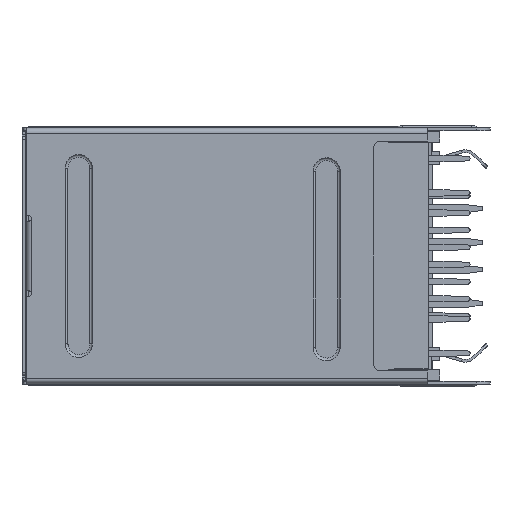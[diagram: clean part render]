
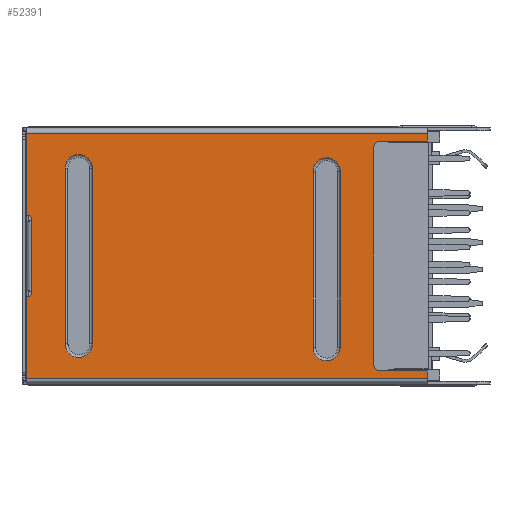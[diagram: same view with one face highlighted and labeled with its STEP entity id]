
A CAD part, left-side view. The second image highlights one B-rep face of the part: STEP entity #52391.
In plain terms, the highlighted planar face has unit normal (-1, 0, 0).
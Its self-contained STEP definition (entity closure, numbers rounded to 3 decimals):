
#2105=DIRECTION('',(0.,-1.,0.));
#2106=VECTOR('',#2105,29.7);
#2107=CARTESIAN_POINT('',(-27.21,-0.48,
-9.08));
#2108=LINE('',#2107,#2106);
#2137=DIRECTION('',(0.,0.,1.));
#2138=VECTOR('',#2137,0.575);
#2139=CARTESIAN_POINT('',(-27.21,-30.18,-9.08));
#2140=LINE('',#2139,#2138);
#3127=CARTESIAN_POINT('',(-27.21,-0.68,2.77));
#3128=DIRECTION('',(-1.,0.,0.));
#3129=DIRECTION('',(0.,-1.,0.));
#3130=AXIS2_PLACEMENT_3D('',#3127,#3128,#3129);
#3132=DIRECTION('',(0.,1.,0.));
#3133=VECTOR('',#3132,0.2);
#3134=CARTESIAN_POINT('',(-27.21,-0.68,2.97));
#3135=LINE('',#3134,#3133);
#3136=DIRECTION('',(0.,0.,1.));
#3137=VECTOR('',#3136,6.1);
#3138=CARTESIAN_POINT('',(-27.21,-0.48,2.97));
#3139=LINE('',#3138,#3137);
#3140=DIRECTION('',(0.,1.,0.));
#3141=VECTOR('',#3140,3.5);
#3142=CARTESIAN_POINT('',(-27.21,-30.18,8.495));
#3143=LINE('',#3142,#3141);
#3144=CARTESIAN_POINT('',(-27.21,-26.68,7.995));
#3145=DIRECTION('',(-1.,0.,0.));
#3146=DIRECTION('',(0.,0.,1.));
#3147=AXIS2_PLACEMENT_3D('',#3144,#3145,#3146);
#3149=CARTESIAN_POINT('',(-27.21,-26.68,-8.005));
#3150=DIRECTION('',(-1.,0.,0.));
#3151=DIRECTION('',(0.,1.,0.));
#3152=AXIS2_PLACEMENT_3D('',#3149,#3150,#3151);
#3154=DIRECTION('',(0.,0.,1.));
#3155=VECTOR('',#3154,6.1);
#3156=CARTESIAN_POINT('',(-27.21,-0.48,
-9.08));
#3157=LINE('',#3156,#3155);
#3158=CARTESIAN_POINT('',(-27.21,-0.68,-2.78));
#3159=DIRECTION('',(-1.,0.,0.));
#3160=DIRECTION('',(0.,0.,-1.));
#3161=AXIS2_PLACEMENT_3D('',#3158,#3159,#3160);
#3163=CARTESIAN_POINT('',(-27.21,-4.38,6.495));
#3164=DIRECTION('',(-1.,0.,0.));
#3165=DIRECTION('',(0.,-1.,0.));
#3166=AXIS2_PLACEMENT_3D('',#3163,#3164,#3165);
#3168=CARTESIAN_POINT('',(-27.21,-4.38,6.495));
#3169=DIRECTION('',(-1.,0.,0.));
#3170=DIRECTION('',(0.,-0.995,0.104));
#3171=AXIS2_PLACEMENT_3D('',#3168,#3169,#3170);
#3173=CARTESIAN_POINT('',(-27.21,-4.38,-6.505));
#3174=DIRECTION('',(-1.,0.,0.));
#3175=DIRECTION('',(0.,1.,0.));
#3176=AXIS2_PLACEMENT_3D('',#3173,#3174,#3175);
#3178=CARTESIAN_POINT('',(-27.21,-4.38,-6.505));
#3179=DIRECTION('',(-1.,0.,0.));
#3180=DIRECTION('',(0.,0.995,-0.104));
#3181=AXIS2_PLACEMENT_3D('',#3178,#3179,#3180);
#3183=CARTESIAN_POINT('',(-27.21,-22.7,6.25));
#3184=DIRECTION('',(-1.,0.,0.));
#3185=DIRECTION('',(0.,-1.,0.));
#3186=AXIS2_PLACEMENT_3D('',#3183,#3184,#3185);
#3188=CARTESIAN_POINT('',(-27.21,-22.7,6.25));
#3189=DIRECTION('',(-1.,0.,0.));
#3190=DIRECTION('',(0.,-0.995,0.104));
#3191=AXIS2_PLACEMENT_3D('',#3188,#3189,#3190);
#3193=CARTESIAN_POINT('',(-27.21,-22.7,-6.75));
#3194=DIRECTION('',(-1.,0.,0.));
#3195=DIRECTION('',(0.,1.,0.));
#3196=AXIS2_PLACEMENT_3D('',#3193,#3194,#3195);
#3198=CARTESIAN_POINT('',(-27.21,-22.7,-6.75));
#3199=DIRECTION('',(-1.,0.,0.));
#3200=DIRECTION('',(0.,0.995,-0.104));
#3201=AXIS2_PLACEMENT_3D('',#3198,#3199,#3200);
#3229=DIRECTION('',(0.,0.,-1.));
#3230=VECTOR('',#3229,5.55);
#3231=CARTESIAN_POINT('',(-27.21,-0.88,2.77));
#3232=LINE('',#3231,#3230);
#7009=DIRECTION('',(0.,0.,1.));
#7010=VECTOR('',#7009,0.575);
#7011=CARTESIAN_POINT('',(-27.21,-30.18,8.495));
#7012=LINE('',#7011,#7010);
#7044=DIRECTION('',(0.,1.,0.));
#7045=VECTOR('',#7044,29.7);
#7046=CARTESIAN_POINT('',(-27.21,-30.18,9.07));
#7047=LINE('',#7046,#7045);
#7178=DIRECTION('',(0.,1.,0.));
#7179=VECTOR('',#7178,0.2);
#7180=CARTESIAN_POINT('',(-27.21,-0.68,-2.98));
#7181=LINE('',#7180,#7179);
#7270=DIRECTION('',(0.,1.,0.));
#7271=VECTOR('',#7270,3.5);
#7272=CARTESIAN_POINT('',(-27.21,-30.18,-8.505));
#7273=LINE('',#7272,#7271);
#7286=DIRECTION('',(0.,0.,1.));
#7287=VECTOR('',#7286,16.);
#7288=CARTESIAN_POINT('',(-27.21,-26.18,-8.005));
#7289=LINE('',#7288,#7287);
#28000=DIRECTION('',(0.,0.,-1.));
#28001=VECTOR('',#28000,13.);
#28002=CARTESIAN_POINT('',(-27.21,-5.38,6.495));
#28003=LINE('',#28002,#28001);
#28038=DIRECTION('',(0.,0.,1.));
#28039=VECTOR('',#28038,13.);
#28040=CARTESIAN_POINT('',(-27.21,-3.38,-6.505));
#28041=LINE('',#28040,#28039);
#28056=DIRECTION('',(0.,0.,-1.));
#28057=VECTOR('',#28056,13.);
#28058=CARTESIAN_POINT('',(-27.21,-23.7,6.25));
#28059=LINE('',#28058,#28057);
#28094=DIRECTION('',(0.,0.,1.));
#28095=VECTOR('',#28094,13.);
#28096=CARTESIAN_POINT('',(-27.21,-21.7,-6.75));
#28097=LINE('',#28096,#28095);
#37675=CARTESIAN_POINT('',(-27.21,-0.48,-9.08));
#37676=VERTEX_POINT('',#37675);
#37677=CARTESIAN_POINT('',(-27.21,-30.18,-9.08));
#37678=VERTEX_POINT('',#37677);
#37683=CARTESIAN_POINT('',(-27.21,-0.48,
-2.98));
#37684=VERTEX_POINT('',#37683);
#37687=CARTESIAN_POINT('',(-27.21,-30.18,-8.505));
#37688=VERTEX_POINT('',#37687);
#37819=CARTESIAN_POINT('',(-27.21,-0.88,2.77));
#37820=CARTESIAN_POINT('',(-27.21,-0.88,-2.78));
#37821=VERTEX_POINT('',#37819);
#37822=VERTEX_POINT('',#37820);
#37823=CARTESIAN_POINT('',(-27.21,-0.68,2.97));
#37824=VERTEX_POINT('',#37823);
#37825=CARTESIAN_POINT('',(-27.21,-0.48,2.97));
#37826=VERTEX_POINT('',#37825);
#37827=CARTESIAN_POINT('',(-27.21,-0.48,9.07));
#37828=VERTEX_POINT('',#37827);
#37829=CARTESIAN_POINT('',(-27.21,-30.18,9.07));
#37830=VERTEX_POINT('',#37829);
#37831=CARTESIAN_POINT('',(-27.21,-30.18,8.495));
#37832=VERTEX_POINT('',#37831);
#37833=CARTESIAN_POINT('',(-27.21,-26.68,8.495));
#37834=VERTEX_POINT('',#37833);
#37835=CARTESIAN_POINT('',(-27.21,-26.18,7.995));
#37836=VERTEX_POINT('',#37835);
#37837=CARTESIAN_POINT('',(-27.21,-26.18,-8.005));
#37838=VERTEX_POINT('',#37837);
#37839=CARTESIAN_POINT('',(-27.21,-26.68,-8.505));
#37840=VERTEX_POINT('',#37839);
#37841=CARTESIAN_POINT('',(-27.21,-0.68,-2.98));
#37842=VERTEX_POINT('',#37841);
#37843=CARTESIAN_POINT('',(-27.21,-5.38,6.495));
#37844=CARTESIAN_POINT('',(-27.21,-5.38,-6.505));
#37845=VERTEX_POINT('',#37843);
#37846=VERTEX_POINT('',#37844);
#37847=CARTESIAN_POINT('',(-27.21,-5.375,6.599));
#37848=VERTEX_POINT('',#37847);
#37849=CARTESIAN_POINT('',(-27.21,-3.38,6.495));
#37850=VERTEX_POINT('',#37849);
#37851=CARTESIAN_POINT('',(-27.21,-3.38,-6.505));
#37852=VERTEX_POINT('',#37851);
#37853=CARTESIAN_POINT('',(-27.21,-3.385,-6.609));
#37854=VERTEX_POINT('',#37853);
#37855=CARTESIAN_POINT('',(-27.21,-23.7,6.25));
#37856=CARTESIAN_POINT('',(-27.21,-23.7,-6.75));
#37857=VERTEX_POINT('',#37855);
#37858=VERTEX_POINT('',#37856);
#37859=CARTESIAN_POINT('',(-27.21,-23.695,6.354));
#37860=VERTEX_POINT('',#37859);
#37861=CARTESIAN_POINT('',(-27.21,-21.7,6.25));
#37862=VERTEX_POINT('',#37861);
#37863=CARTESIAN_POINT('',(-27.21,-21.7,-6.75));
#37864=VERTEX_POINT('',#37863);
#37865=CARTESIAN_POINT('',(-27.21,-21.705,-6.854));
#37866=VERTEX_POINT('',#37865);
#52327=CARTESIAN_POINT('',(-27.21,-15.33,-0.005));
#52328=DIRECTION('',(1.,0.,0.));
#52329=DIRECTION('',(0.,0.,1.));
#52330=AXIS2_PLACEMENT_3D('',#52327,#52328,#52329);
#52331=PLANE('',#52330);
#52333=ORIENTED_EDGE('',*,*,#52332,.F.);
#52335=ORIENTED_EDGE('',*,*,#52334,.T.);
#52337=ORIENTED_EDGE('',*,*,#52336,.T.);
#52339=ORIENTED_EDGE('',*,*,#52338,.T.);
#52341=ORIENTED_EDGE('',*,*,#52340,.F.);
#52343=ORIENTED_EDGE('',*,*,#52342,.F.);
#52345=ORIENTED_EDGE('',*,*,#52344,.T.);
#52347=ORIENTED_EDGE('',*,*,#52346,.T.);
#52349=ORIENTED_EDGE('',*,*,#52348,.F.);
#52351=ORIENTED_EDGE('',*,*,#52350,.T.);
#52353=ORIENTED_EDGE('',*,*,#52352,.F.);
#52354=ORIENTED_EDGE('',*,*,#50333,.F.);
#52355=ORIENTED_EDGE('',*,*,#50283,.F.);
#52356=ORIENTED_EDGE('',*,*,#50301,.T.);
#52358=ORIENTED_EDGE('',*,*,#52357,.F.);
#52360=ORIENTED_EDGE('',*,*,#52359,.T.);
#52361=EDGE_LOOP('',(#52333,#52335,#52337,#52339,#52341,#52343,#52345,#52347,
#52349,#52351,#52353,#52354,#52355,#52356,#52358,#52360));
#52362=FACE_OUTER_BOUND('',#52361,.F.);
#52364=ORIENTED_EDGE('',*,*,#52363,.F.);
#52366=ORIENTED_EDGE('',*,*,#52365,.T.);
#52368=ORIENTED_EDGE('',*,*,#52367,.T.);
#52370=ORIENTED_EDGE('',*,*,#52369,.F.);
#52372=ORIENTED_EDGE('',*,*,#52371,.T.);
#52374=ORIENTED_EDGE('',*,*,#52373,.T.);
#52375=EDGE_LOOP('',(#52364,#52366,#52368,#52370,#52372,#52374));
#52376=FACE_BOUND('',#52375,.F.);
#52378=ORIENTED_EDGE('',*,*,#52377,.F.);
#52380=ORIENTED_EDGE('',*,*,#52379,.T.);
#52382=ORIENTED_EDGE('',*,*,#52381,.T.);
#52384=ORIENTED_EDGE('',*,*,#52383,.F.);
#52386=ORIENTED_EDGE('',*,*,#52385,.T.);
#52388=ORIENTED_EDGE('',*,*,#52387,.T.);
#52389=EDGE_LOOP('',(#52378,#52380,#52382,#52384,#52386,#52388));
#52390=FACE_BOUND('',#52389,.F.);
#52391=ADVANCED_FACE('',(#52362,#52376,#52390),#52331,.F.);
#3131=CIRCLE('',#3130,0.2);
#3148=CIRCLE('',#3147,0.5);
#3153=CIRCLE('',#3152,0.5);
#3162=CIRCLE('',#3161,0.2);
#3167=CIRCLE('',#3166,1.);
#3172=CIRCLE('',#3171,1.);
#3177=CIRCLE('',#3176,1.);
#3182=CIRCLE('',#3181,1.);
#3187=CIRCLE('',#3186,1.);
#3192=CIRCLE('',#3191,1.);
#3197=CIRCLE('',#3196,1.);
#3202=CIRCLE('',#3201,1.);
#50283=EDGE_CURVE('',#37676,#37678,#2108,.T.);
#50301=EDGE_CURVE('',#37676,#37684,#3157,.T.);
#50333=EDGE_CURVE('',#37678,#37688,#2140,.T.);
#52332=EDGE_CURVE('',#37821,#37822,#3232,.T.);
#52334=EDGE_CURVE('',#37821,#37824,#3131,.T.);
#52336=EDGE_CURVE('',#37824,#37826,#3135,.T.);
#52338=EDGE_CURVE('',#37826,#37828,#3139,.T.);
#52340=EDGE_CURVE('',#37830,#37828,#7047,.T.);
#52342=EDGE_CURVE('',#37832,#37830,#7012,.T.);
#52344=EDGE_CURVE('',#37832,#37834,#3143,.T.);
#52346=EDGE_CURVE('',#37834,#37836,#3148,.T.);
#52348=EDGE_CURVE('',#37838,#37836,#7289,.T.);
#52350=EDGE_CURVE('',#37838,#37840,#3153,.T.);
#52352=EDGE_CURVE('',#37688,#37840,#7273,.T.);
#52357=EDGE_CURVE('',#37842,#37684,#7181,.T.);
#52359=EDGE_CURVE('',#37842,#37822,#3162,.T.);
#52363=EDGE_CURVE('',#37845,#37846,#28003,.T.);
#52365=EDGE_CURVE('',#37845,#37848,#3167,.T.);
#52367=EDGE_CURVE('',#37848,#37850,#3172,.T.);
#52369=EDGE_CURVE('',#37852,#37850,#28041,.T.);
#52371=EDGE_CURVE('',#37852,#37854,#3177,.T.);
#52373=EDGE_CURVE('',#37854,#37846,#3182,.T.);
#52377=EDGE_CURVE('',#37857,#37858,#28059,.T.);
#52379=EDGE_CURVE('',#37857,#37860,#3187,.T.);
#52381=EDGE_CURVE('',#37860,#37862,#3192,.T.);
#52383=EDGE_CURVE('',#37864,#37862,#28097,.T.);
#52385=EDGE_CURVE('',#37864,#37866,#3197,.T.);
#52387=EDGE_CURVE('',#37866,#37858,#3202,.T.);
